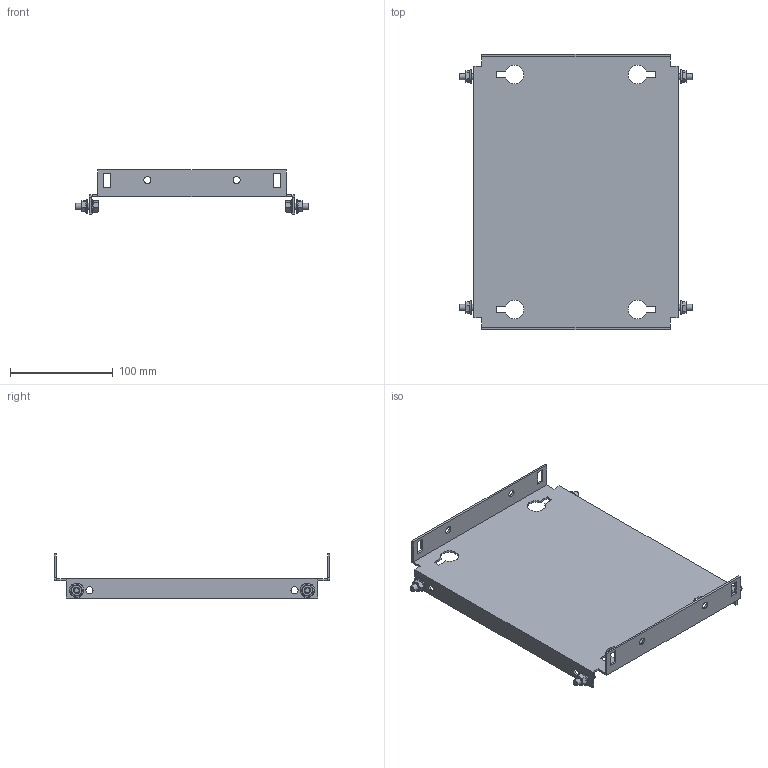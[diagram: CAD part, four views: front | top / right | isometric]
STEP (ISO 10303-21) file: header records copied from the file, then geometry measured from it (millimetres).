
FILE_DESCRIPTION(('Open CASCADE Model'),'2;1');
FILE_NAME('Open CASCADE Shape Model','2025-02-20T13:24:40',('Author'),( 'Open CASCADE'),'Open CASCADE STEP processor 7.8','Open CASCADE 7.8' ,'Unknown');
FILE_SCHEMA(('AUTOMOTIVE_DESIGN { 1 0 10303 214 1 1 1 1 }'));
Length unit declared in the file: millimetre
Products named in the file (4): Compound1; Solid1; Solid2; Solid3
Assembly tree (9 placements, depth 2):
  Compound1
    Solid1
    Solid2  x4
    Solid3  x4
Bounding box: 228 x 269 x 43 mm (x, y, z)
Volume: 143303.7 mm3; surface area: 146005.8 mm2
Topology: 9 solids, 9 shells, 306 faces, 746 edges, 462 vertices
Faces by surface type: plane 150, cone 68, bspline 48, cylinder 28, torus 12
Full cylindrical faces by diameter (mm): 5 x4, 6 x8, 7 x12
Entity records: 4844 total; most frequent: CARTESIAN_POINT 1361, ORIENTED_EDGE 742, DIRECTION 628, EDGE_CURVE 371, VERTEX_POINT 240, LINE 216, VECTOR 216, AXIS2_PLACEMENT_3D 206
